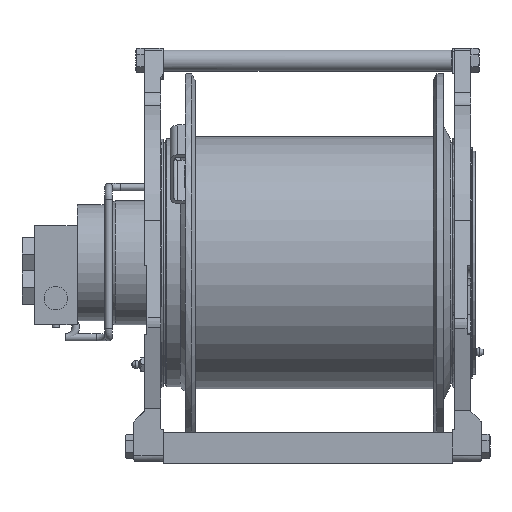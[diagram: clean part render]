
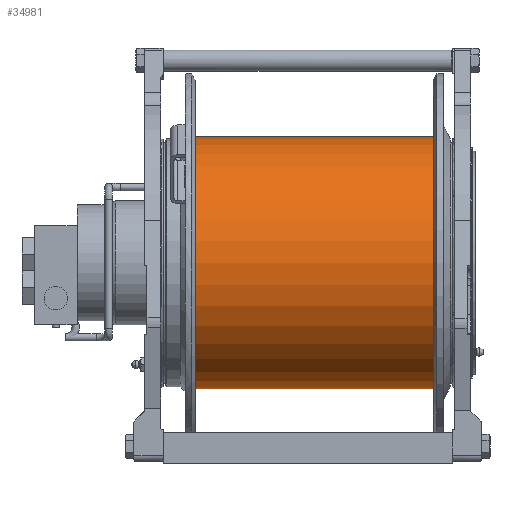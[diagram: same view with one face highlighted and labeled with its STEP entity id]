
A CAD part, front view. The second image highlights one B-rep face of the part: STEP entity #34981.
In plain terms, the highlighted cylindrical face has radius 101.5 mm (diameter 203 mm), a full revolution.
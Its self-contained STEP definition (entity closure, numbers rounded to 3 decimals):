
#2412=LINE('',#51839,#4819);
#4819=VECTOR('',#41527,101.5);
#8123=CYLINDRICAL_SURFACE('',#37360,101.5);
#8646=FACE_OUTER_BOUND('',#10699,.T.);
#10699=EDGE_LOOP('',(#24603,#24604,#24605,#24606,#24607,#24608));
#12931=CIRCLE('',#37361,101.5);
#12932=CIRCLE('',#37362,101.5);
#12933=CIRCLE('',#37363,101.5);
#12934=CIRCLE('',#37364,101.5);
#14640=VERTEX_POINT('',#51835);
#14641=VERTEX_POINT('',#51836);
#14642=VERTEX_POINT('',#51838);
#14643=VERTEX_POINT('',#51840);
#18514=EDGE_CURVE('',#14640,#14641,#12931,.T.);
#18515=EDGE_CURVE('',#14641,#14642,#2412,.T.);
#18516=EDGE_CURVE('',#14642,#14643,#12932,.T.);
#18517=EDGE_CURVE('',#14643,#14642,#12933,.T.);
#18518=EDGE_CURVE('',#14641,#14640,#12934,.T.);
#24603=ORIENTED_EDGE('',*,*,#18514,.T.);
#24604=ORIENTED_EDGE('',*,*,#18515,.T.);
#24605=ORIENTED_EDGE('',*,*,#18516,.T.);
#24606=ORIENTED_EDGE('',*,*,#18517,.T.);
#24607=ORIENTED_EDGE('',*,*,#18515,.F.);
#24608=ORIENTED_EDGE('',*,*,#18518,.T.);
#34981=ADVANCED_FACE('',(#8646),#8123,.T.);
#37360=AXIS2_PLACEMENT_3D('',#51834,#41523,#41524);
#37361=AXIS2_PLACEMENT_3D('',#51837,#41525,#41526);
#37362=AXIS2_PLACEMENT_3D('',#51841,#41528,#41529);
#37363=AXIS2_PLACEMENT_3D('',#51842,#41530,#41531);
#37364=AXIS2_PLACEMENT_3D('',#51843,#41532,#41533);
#41523=DIRECTION('center_axis',(-1.,0.,0.));
#41524=DIRECTION('ref_axis',(0.,-1.,0.));
#41525=DIRECTION('center_axis',(1.,0.,0.));
#41526=DIRECTION('ref_axis',(0.,-1.,0.));
#41527=DIRECTION('',(1.,0.,0.));
#41528=DIRECTION('center_axis',(-1.,0.,0.));
#41529=DIRECTION('ref_axis',(0.,-1.,0.));
#41530=DIRECTION('center_axis',(-1.,0.,0.));
#41531=DIRECTION('ref_axis',(0.,-1.,0.));
#41532=DIRECTION('center_axis',(1.,0.,0.));
#41533=DIRECTION('ref_axis',(0.,-1.,0.));
#51834=CARTESIAN_POINT('Origin',(-75.25,0.,0.));
#51835=CARTESIAN_POINT('',(-75.25,-101.5,0.));
#51836=CARTESIAN_POINT('',(-75.25,101.5,0.));
#51837=CARTESIAN_POINT('Origin',(-75.25,0.,
0.));
#51838=CARTESIAN_POINT('',(116.75,101.5,0.));
#51839=CARTESIAN_POINT('',(-75.25,101.5,0.));
#51840=CARTESIAN_POINT('',(116.75,-101.5,0.));
#51841=CARTESIAN_POINT('Origin',(116.75,0.,
0.));
#51842=CARTESIAN_POINT('Origin',(116.75,0.,
0.));
#51843=CARTESIAN_POINT('Origin',(-75.25,0.,
0.));
